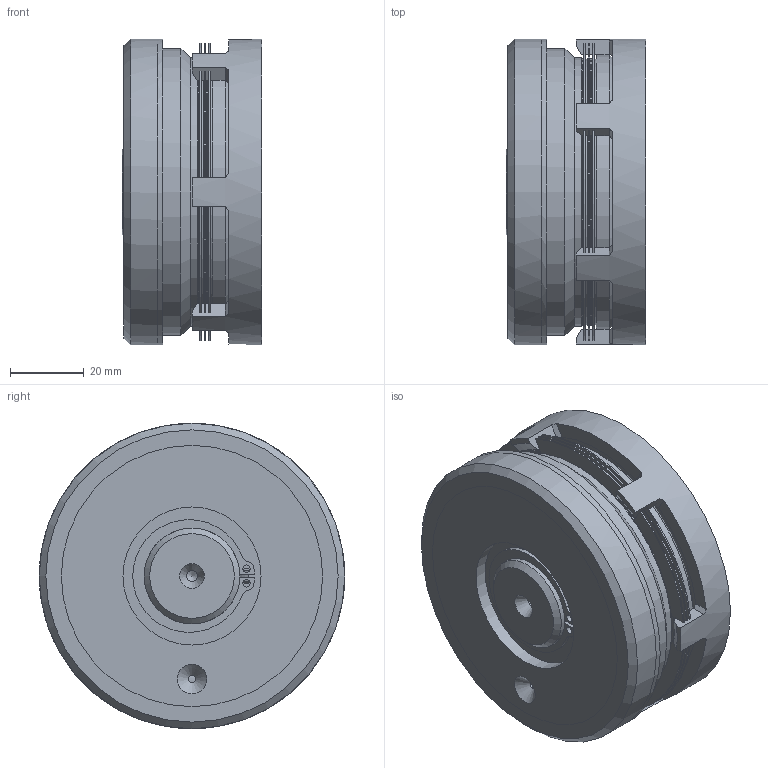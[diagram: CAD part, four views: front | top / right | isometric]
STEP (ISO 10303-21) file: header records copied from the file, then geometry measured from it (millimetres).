
FILE_DESCRIPTION(/* description */ (''),/* implementation_level */ '2;1');
FILE_NAME(/* name */ 'X:\INVENTOR\DISEGNI\05_Friz_Elettmag-Lam\05_03 EC_C\05_03_082_01 EC082_C\05_03_082_01 EC082_C@STEP.stp',/* time_stamp */ '2023-03-07T10:19:07+01:00',/* author */ ('alessio'),/* organization */ (''),/* preprocessor_version */ 'ST-DEVELOPER v18.1',/* originating_system */ 'Autodesk Inventor 2021',/* authorisation */ '');
FILE_SCHEMA (('AUTOMOTIVE_DESIGN { 1 0 10303 214 3 1 1 }'));
Length unit declared in the file: millimetre
Products named in the file (1): 05_03_082_01 EC082_C
Bounding box: 38 x 83 x 83 mm (x, y, z)
Volume: 160575.2 mm3; surface area: 77514.3 mm2
Topology: 6 solids, 7 shells, 1101 faces, 3335 edges, 2131 vertices
Faces by surface type: cylinder 772, plane 267, cone 59, torus 3
Full cylindrical faces by diameter (mm): 2 x3, 3.1 x2, 24.9 x1, 25.5 x1, 26 x1, 30 x1, 32.5 x1, 34 x3, 37.5 x1, 48 x1, 51 x1, 63 x1, 66 x1, 72.4 x4, 73 x1, 74.5 x1, 75 x1, 78 x1, 83 x3
Entity records: 39648 total; most frequent: DIRECTION 7497, CARTESIAN_POINT 6951, ORIENTED_EDGE 6664, EDGE_CURVE 3332, AXIS2_PLACEMENT_3D 3173, VERTEX_POINT 2131, CIRCLE 2047, EDGE_LOOP 1213
